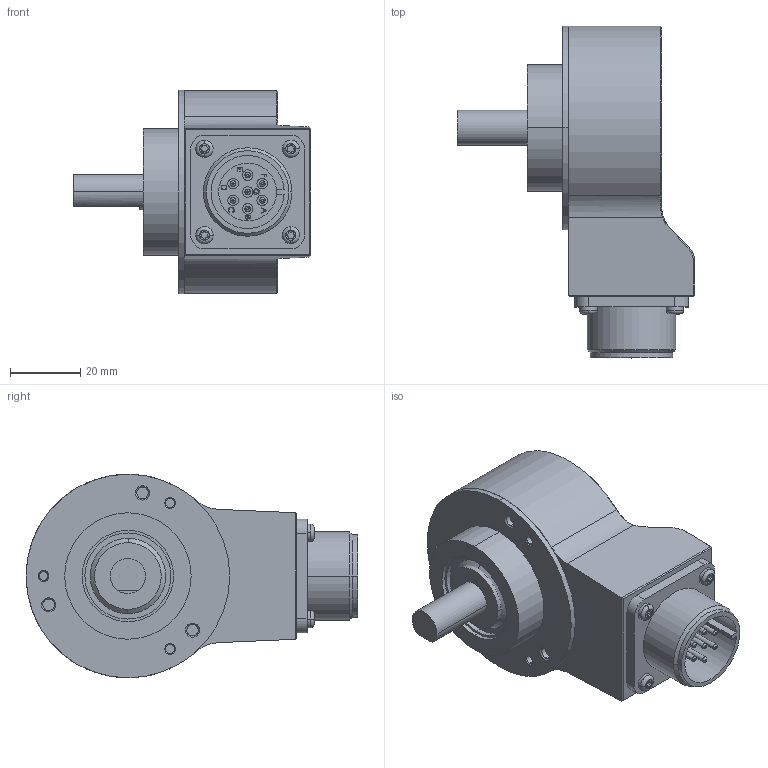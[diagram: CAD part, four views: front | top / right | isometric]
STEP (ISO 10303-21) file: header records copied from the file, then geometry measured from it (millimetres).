
FILE_DESCRIPTION (( 'STEP AP203' ), '1' );
FILE_NAME ('K58I.OXX.XXXXX.XS1C510.6XRCD.step', '2025-12-08T15:13:05', ( '' ), ( '' ), 'SwSTEP 2.0', 'SolidWorks 2021', '' );
FILE_SCHEMA (( 'CONFIG_CONTROL_DESIGN' ));
Length unit declared in the file: millimetre
Products named in the file (1): K58I.OXX.XXXXX.XS1C510.6XRCD
Bounding box: 67.69 x 94.5 x 58 mm (x, y, z)
Volume: 148997.7 mm3; surface area: 36124.4 mm2
Topology: 6 solids, 6 shells, 395 faces, 948 edges, 602 vertices
Faces by surface type: cylinder 161, plane 132, bspline 50, cone 34, torus 18
Entity records: 15252 total; most frequent: CARTESIAN_POINT 6100, DIRECTION 1877, ORIENTED_EDGE 1872, EDGE_CURVE 936, AXIS2_PLACEMENT_3D 717, VERTEX_POINT 602, EDGE_LOOP 452, LINE 443
